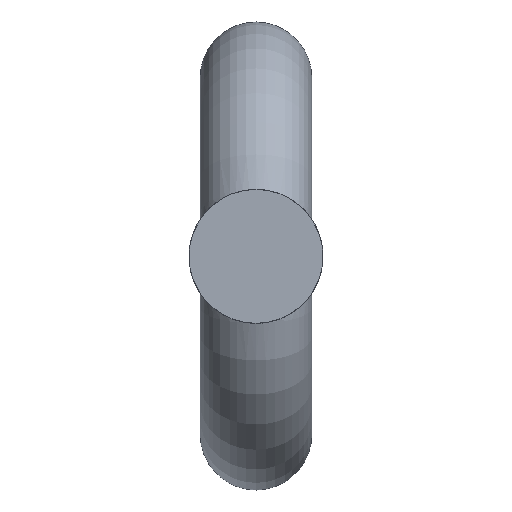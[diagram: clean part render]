
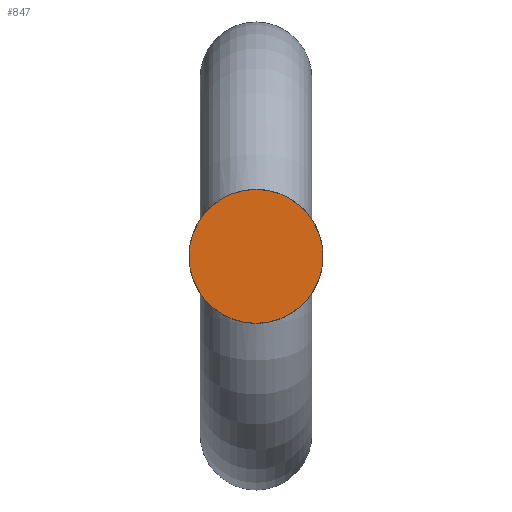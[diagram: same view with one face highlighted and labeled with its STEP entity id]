
A CAD part, left-side view. The second image highlights one B-rep face of the part: STEP entity #847.
In plain terms, the highlighted planar face has unit normal (-1, 0, 0).
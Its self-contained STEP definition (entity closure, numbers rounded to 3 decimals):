
#33 = CYLINDRICAL_SURFACE('',#34,3.);
#34 = AXIS2_PLACEMENT_3D('',#35,#36,#37);
#35 = CARTESIAN_POINT('',(672.,0.,-22.));
#36 = DIRECTION('',(1.,0.,0.));
#37 = DIRECTION('',(-0.,0.,1.));
#173 = VERTEX_POINT('',#174);
#174 = CARTESIAN_POINT('',(672.,0.,-19.));
#195 = EDGE_CURVE('',#173,#173,#196,.T.);
#196 = SURFACE_CURVE('',#197,(#202,#209),.PCURVE_S1.);
#197 = CIRCLE('',#198,3.);
#198 = AXIS2_PLACEMENT_3D('',#199,#200,#201);
#199 = CARTESIAN_POINT('',(672.,0.,-22.));
#200 = DIRECTION('',(1.,0.,0.));
#201 = DIRECTION('',(-0.,0.,1.));
#202 = PCURVE('',#33,#203);
#203 = DEFINITIONAL_REPRESENTATION('',(#204),#208);
#204 = LINE('',#205,#206);
#205 = CARTESIAN_POINT('',(0.,0.));
#206 = VECTOR('',#207,1.);
#207 = DIRECTION('',(1.,0.));
#208 = ( GEOMETRIC_REPRESENTATION_CONTEXT(2) 
PARAMETRIC_REPRESENTATION_CONTEXT() REPRESENTATION_CONTEXT('2D SPACE',''
  ) );
#209 = PCURVE('',#210,#215);
#210 = PLANE('',#211);
#211 = AXIS2_PLACEMENT_3D('',#212,#213,#214);
#212 = CARTESIAN_POINT('',(672.,0.,-22.));
#213 = DIRECTION('',(1.,0.,0.));
#214 = DIRECTION('',(-0.,0.,1.));
#215 = DEFINITIONAL_REPRESENTATION('',(#216),#220);
#216 = CIRCLE('',#217,3.);
#217 = AXIS2_PLACEMENT_2D('',#218,#219);
#218 = CARTESIAN_POINT('',(0.,0.));
#219 = DIRECTION('',(1.,0.));
#220 = ( GEOMETRIC_REPRESENTATION_CONTEXT(2) 
PARAMETRIC_REPRESENTATION_CONTEXT() REPRESENTATION_CONTEXT('2D SPACE',''
  ) );
#847 = ADVANCED_FACE('',(#848),#210,.F.);
#848 = FACE_BOUND('',#849,.T.);
#849 = EDGE_LOOP('',(#850));
#850 = ORIENTED_EDGE('',*,*,#195,.F.);
